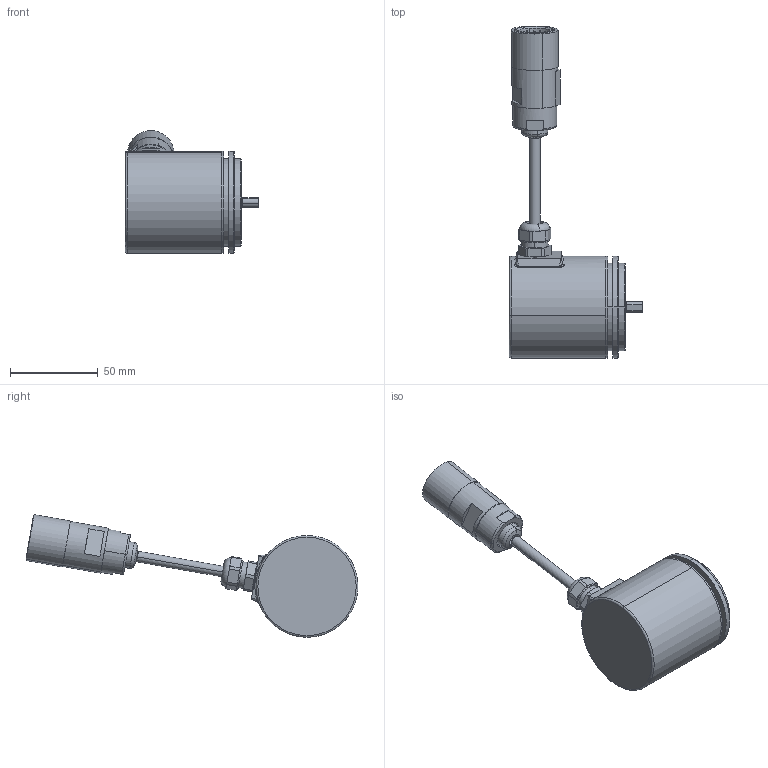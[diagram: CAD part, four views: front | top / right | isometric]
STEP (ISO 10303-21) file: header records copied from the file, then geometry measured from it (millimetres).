
FILE_DESCRIPTION (( 'STEP AP203' ), '1' );
FILE_NAME ('8.5805.21XC.XXXX.STEP', '2012-10-05T08:07:42', ( 'Hodot' ), ( '' ), 'SwSTEP 2.0', 'SolidWorks 2012', '' );
FILE_SCHEMA (( 'CONFIG_CONTROL_DESIGN' ));
Length unit declared in the file: millimetre
Products named in the file (1): 8.5805.21XC.XXXX
Bounding box: 75.95 x 188.97 x 69.85 mm (x, y, z)
Volume: 88116.5 mm3; surface area: 69488.8 mm2
Topology: 24 solids, 25 shells, 817 faces, 1856 edges, 1132 vertices
Faces by surface type: cylinder 375, plane 204, cone 108, torus 63, sphere 46, bspline 21
Entity records: 24997 total; most frequent: CARTESIAN_POINT 6409, DIRECTION 4272, ORIENTED_EDGE 3530, AXIS2_PLACEMENT_3D 1821, EDGE_CURVE 1765, VERTEX_POINT 1102, CIRCLE 1024, EDGE_LOOP 985
